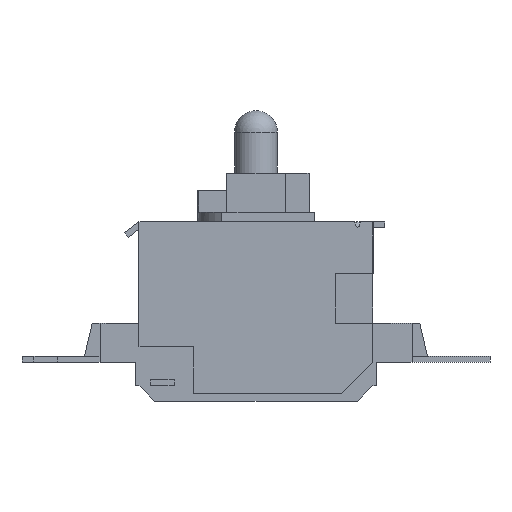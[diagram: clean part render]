
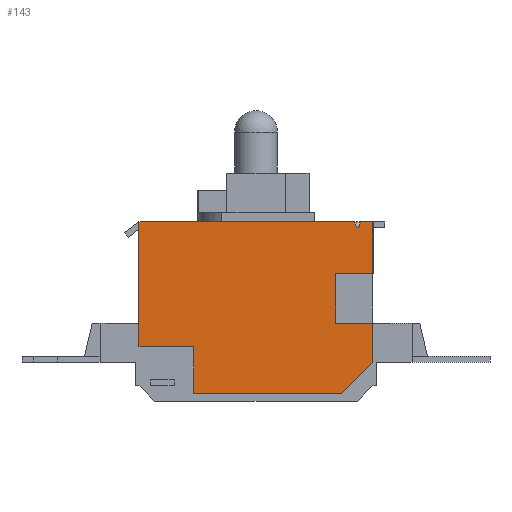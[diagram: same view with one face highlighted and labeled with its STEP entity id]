
A CAD part, front view. The second image highlights one B-rep face of the part: STEP entity #143.
In plain terms, the highlighted planar face has unit normal (0, -1, 0).
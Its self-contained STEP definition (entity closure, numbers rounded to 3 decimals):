
#100 = EDGE_LOOP ( 'NONE', ( #146, #119, #134, #144, #139, #147, #129, #157, #152, #164, #151, #169, #159, #167, #165 ) ) ;
#119 = ORIENTED_EDGE ( 'NONE', *, *, #136, .F. ) ;
#126 = VERTEX_POINT ( 'NONE', #2289 ) ;
#129 = ORIENTED_EDGE ( 'NONE', *, *, #271, .T. ) ;
#132 = VERTEX_POINT ( 'NONE', #2350 ) ;
#134 = ORIENTED_EDGE ( 'NONE', *, *, #135, .F. ) ;
#135 = EDGE_CURVE ( 'NONE', #142, #141, #2345, .T. ) ;
#136 = EDGE_CURVE ( 'NONE', #141, #126, #2334, .T. ) ;
#139 = ORIENTED_EDGE ( 'NONE', *, *, #154, .F. ) ;
#141 = VERTEX_POINT ( 'NONE', #2330 ) ;
#142 = VERTEX_POINT ( 'NONE', #2328 ) ;
#143 = ADVANCED_FACE ( 'NONE', ( #2327 ), #2323, .F. ) ;
#144 = ORIENTED_EDGE ( 'NONE', *, *, #148, .T. ) ;
#145 = EDGE_CURVE ( 'NONE', #7096, #126, #2368, .T. ) ;
#146 = ORIENTED_EDGE ( 'NONE', *, *, #145, .T. ) ;
#147 = ORIENTED_EDGE ( 'NONE', *, *, #156, .F. ) ;
#148 = EDGE_CURVE ( 'NONE', #142, #132, #2365, .T. ) ;
#151 = ORIENTED_EDGE ( 'NONE', *, *, #369, .T. ) ;
#152 = ORIENTED_EDGE ( 'NONE', *, *, #354, .T. ) ;
#154 = EDGE_CURVE ( 'NONE', #155, #132, #2356, .T. ) ;
#155 = VERTEX_POINT ( 'NONE', #2353 ) ;
#156 = EDGE_CURVE ( 'NONE', #258, #155, #2408, .T. ) ;
#157 = ORIENTED_EDGE ( 'NONE', *, *, #361, .T. ) ;
#159 = ORIENTED_EDGE ( 'NONE', *, *, #392, .T. ) ;
#164 = ORIENTED_EDGE ( 'NONE', *, *, #376, .T. ) ;
#165 = ORIENTED_EDGE ( 'NONE', *, *, #7103, .T. ) ;
#167 = ORIENTED_EDGE ( 'NONE', *, *, #7114, .T. ) ;
#169 = ORIENTED_EDGE ( 'NONE', *, *, #400, .T. ) ;
#258 = VERTEX_POINT ( 'NONE', #2629 ) ;
#269 = VERTEX_POINT ( 'NONE', #2617 ) ;
#271 = EDGE_CURVE ( 'NONE', #258, #269, #2653, .T. ) ;
#354 = EDGE_CURVE ( 'NONE', #368, #357, #2812, .T. ) ;
#357 = VERTEX_POINT ( 'NONE', #2744 ) ;
#361 = EDGE_CURVE ( 'NONE', #269, #368, #2795, .T. ) ;
#363 = VERTEX_POINT ( 'NONE', #2814 ) ;
#366 = VERTEX_POINT ( 'NONE', #2846 ) ;
#368 = VERTEX_POINT ( 'NONE', #2845 ) ;
#369 = EDGE_CURVE ( 'NONE', #363, #395, #2847, .T. ) ;
#376 = EDGE_CURVE ( 'NONE', #357, #363, #2830, .T. ) ;
#385 = VERTEX_POINT ( 'NONE', #2852 ) ;
#386 = VERTEX_POINT ( 'NONE', #2891 ) ;
#392 = EDGE_CURVE ( 'NONE', #385, #366, #2916, .T. ) ;
#395 = VERTEX_POINT ( 'NONE', #2918 ) ;
#400 = EDGE_CURVE ( 'NONE', #395, #385, #2473, .T. ) ;
#2289 = CARTESIAN_POINT ( 'NONE',  ( 1.5, -1.7, 1.8 ) ) ;
#2323 = PLANE ( 'NONE',  #2338 ) ;
#2324 = DIRECTION ( 'NONE',  ( 0., 0., 1. ) ) ;
#2325 = CARTESIAN_POINT ( 'NONE',  ( 1.5, -1.7, 1.138 ) ) ;
#2327 = FACE_OUTER_BOUND ( 'NONE', #100, .T. ) ;
#2328 = CARTESIAN_POINT ( 'NONE',  ( 1.305, -1.7, 1.729 ) ) ;
#2330 = CARTESIAN_POINT ( 'NONE',  ( 1.352, -1.7, 1.8 ) ) ;
#2331 = DIRECTION ( 'NONE',  ( 1., 0., 0. ) ) ;
#2332 = VECTOR ( 'NONE', #2331, 1000. ) ;
#2333 = CARTESIAN_POINT ( 'NONE',  ( 1.5, -1.7, 1.8 ) ) ;
#2334 = LINE ( 'NONE', #2333, #2332 ) ;
#2337 = DIRECTION ( 'NONE',  ( 0.553, 0., 0.833 ) ) ;
#2338 = AXIS2_PLACEMENT_3D ( 'NONE', #2346, #2367, #2366 ) ;
#2339 = VECTOR ( 'NONE', #2337, 1000. ) ;
#2344 = CARTESIAN_POINT ( 'NONE',  ( 0.939, -1.7, 1.177 ) ) ;
#2345 = LINE ( 'NONE', #2344, #2339 ) ;
#2346 = CARTESIAN_POINT ( 'NONE',  ( 1.5, -1.7, 1.724 ) ) ;
#2350 = CARTESIAN_POINT ( 'NONE',  ( 1.298, -1.7, 1.729 ) ) ;
#2353 = CARTESIAN_POINT ( 'NONE',  ( 1.251, -1.7, 1.8 ) ) ;
#2355 = CARTESIAN_POINT ( 'NONE',  ( 0.869, -1.7, 2.376 ) ) ;
#2356 = LINE ( 'NONE', #2355, #2411 ) ;
#2362 = VECTOR ( 'NONE', #2370, 1000. ) ;
#2363 = VECTOR ( 'NONE', #2324, 1000. ) ;
#2365 = LINE ( 'NONE', #2371, #2362 ) ;
#2366 = DIRECTION ( 'NONE',  ( 0., 0., 1. ) ) ;
#2367 = DIRECTION ( 'NONE',  ( 0., 1., 0. ) ) ;
#2368 = LINE ( 'NONE', #2325, #2363 ) ;
#2370 = DIRECTION ( 'NONE',  ( -1., 0., 0. ) ) ;
#2371 = CARTESIAN_POINT ( 'NONE',  ( 0., -1.7, 1.729 ) ) ;
#2405 = DIRECTION ( 'NONE',  ( 1., 0., 0. ) ) ;
#2406 = VECTOR ( 'NONE', #2405, 1000. ) ;
#2407 = CARTESIAN_POINT ( 'NONE',  ( 1.5, -1.7, 1.8 ) ) ;
#2408 = LINE ( 'NONE', #2407, #2406 ) ;
#2410 = DIRECTION ( 'NONE',  ( 0.553, 0., -0.833 ) ) ;
#2411 = VECTOR ( 'NONE', #2410, 1000. ) ;
#2473 = LINE ( 'NONE', #2711, #2917 ) ;
#2617 = CARTESIAN_POINT ( 'NONE',  ( -1.5, -1.7, 0.2 ) ) ;
#2629 = CARTESIAN_POINT ( 'NONE',  ( -1.5, -1.7, 1.8 ) ) ;
#2645 = DIRECTION ( 'NONE',  ( 0., 0., -1. ) ) ;
#2646 = VECTOR ( 'NONE', #2645, 1000. ) ;
#2647 = CARTESIAN_POINT ( 'NONE',  ( -1.5, -1.7, 1.724 ) ) ;
#2653 = LINE ( 'NONE', #2647, #2646 ) ;
#2711 = CARTESIAN_POINT ( 'NONE',  ( 1.5, -1.7, 0. ) ) ;
#2744 = CARTESIAN_POINT ( 'NONE',  ( -0.8, -1.7, -0.4 ) ) ;
#2794 = CARTESIAN_POINT ( 'NONE',  ( -1.5, -1.7, 0.2 ) ) ;
#2795 = LINE ( 'NONE', #2794, #2824 ) ;
#2809 = DIRECTION ( 'NONE',  ( 0., 0., -1. ) ) ;
#2810 = VECTOR ( 'NONE', #2809, 1000. ) ;
#2811 = CARTESIAN_POINT ( 'NONE',  ( -0.8, -1.7, 0.2 ) ) ;
#2812 = LINE ( 'NONE', #2811, #2810 ) ;
#2814 = CARTESIAN_POINT ( 'NONE',  ( 1.1, -1.7, -0.4 ) ) ;
#2823 = DIRECTION ( 'NONE',  ( 1., 0., 0. ) ) ;
#2824 = VECTOR ( 'NONE', #2823, 1000. ) ;
#2828 = VECTOR ( 'NONE', #2879, 1000. ) ;
#2829 = CARTESIAN_POINT ( 'NONE',  ( -0.8, -1.7, -0.4 ) ) ;
#2830 = LINE ( 'NONE', #2829, #2828 ) ;
#2833 = DIRECTION ( 'NONE',  ( 0.707, 0., 0.707 ) ) ;
#2834 = VECTOR ( 'NONE', #2833, 1000. ) ;
#2835 = CARTESIAN_POINT ( 'NONE',  ( 1.1, -1.7, -0.4 ) ) ;
#2845 = CARTESIAN_POINT ( 'NONE',  ( -0.8, -1.7, 0.2 ) ) ;
#2846 = CARTESIAN_POINT ( 'NONE',  ( 1.02, -1.7, 0.5 ) ) ;
#2847 = LINE ( 'NONE', #2835, #2834 ) ;
#2852 = CARTESIAN_POINT ( 'NONE',  ( 1.5, -1.7, 0.5 ) ) ;
#2879 = DIRECTION ( 'NONE',  ( 1., 0., 0. ) ) ;
#2891 = CARTESIAN_POINT ( 'NONE',  ( 1.02, -1.7, 1.138 ) ) ;
#2913 = DIRECTION ( 'NONE',  ( -1., 0., 0. ) ) ;
#2914 = VECTOR ( 'NONE', #2913, 1000. ) ;
#2915 = CARTESIAN_POINT ( 'NONE',  ( 1.5, -1.7, 0.5 ) ) ;
#2916 = LINE ( 'NONE', #2915, #2914 ) ;
#2917 = VECTOR ( 'NONE', #2959, 1000. ) ;
#2918 = CARTESIAN_POINT ( 'NONE',  ( 1.5, -1.7, 0. ) ) ;
#2959 = DIRECTION ( 'NONE',  ( 0., 0., 1. ) ) ;
#6982 = DIRECTION ( 'NONE',  ( 1., 0., 0. ) ) ;
#6983 = VECTOR ( 'NONE', #6982, 1000. ) ;
#6984 = CARTESIAN_POINT ( 'NONE',  ( 1.02, -1.7, 1.138 ) ) ;
#6985 = LINE ( 'NONE', #6984, #6983 ) ;
#6993 = CARTESIAN_POINT ( 'NONE',  ( 1.5, -1.7, 1.138 ) ) ;
#7010 = DIRECTION ( 'NONE',  ( 0., 0., 1. ) ) ;
#7011 = VECTOR ( 'NONE', #7010, 1000. ) ;
#7012 = CARTESIAN_POINT ( 'NONE',  ( 1.02, -1.7, 0.5 ) ) ;
#7013 = LINE ( 'NONE', #7012, #7011 ) ;
#7096 = VERTEX_POINT ( 'NONE', #6993 ) ;
#7103 = EDGE_CURVE ( 'NONE', #386, #7096, #6985, .T. ) ;
#7114 = EDGE_CURVE ( 'NONE', #366, #386, #7013, .T. ) ;
